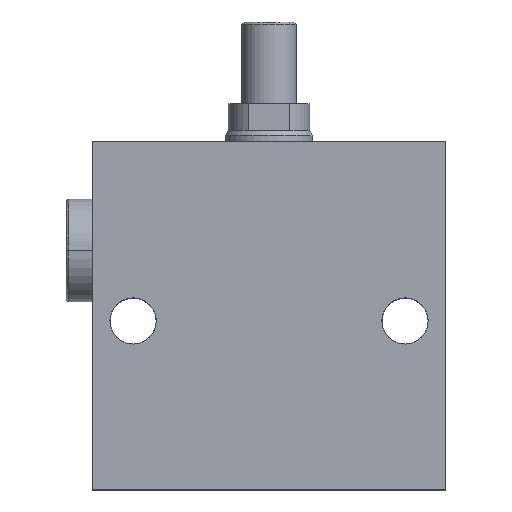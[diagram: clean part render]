
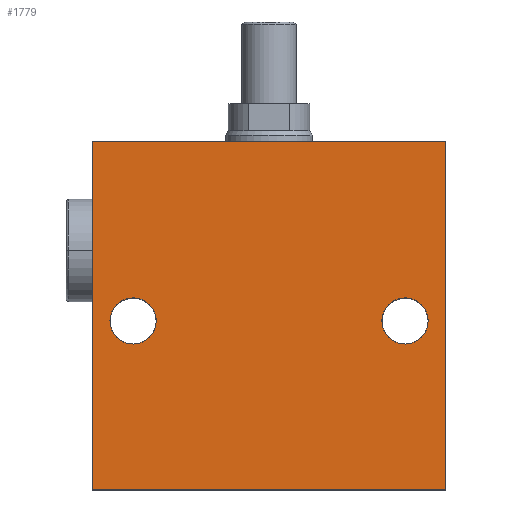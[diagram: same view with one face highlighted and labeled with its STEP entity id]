
A CAD part, top view. The second image highlights one B-rep face of the part: STEP entity #1779.
In plain terms, the highlighted planar face has unit normal (0, 0, 1).
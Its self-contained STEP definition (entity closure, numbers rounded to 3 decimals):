
#24 = CARTESIAN_POINT ( 'NONE',  ( 20.75, 31., 22.5 ) ) ;
#106 = DIRECTION ( 'NONE',  ( -1., 0., 0. ) ) ;
#120 = FACE_BOUND ( 'NONE', #3713, .T. ) ;
#157 = CARTESIAN_POINT ( 'NONE',  ( -20.75, 31., 22.5 ) ) ;
#181 = DIRECTION ( 'NONE',  ( 1., 0., 0. ) ) ;
#216 = CIRCLE ( 'NONE', #1874, 4.25 ) ;
#250 = CIRCLE ( 'NONE', #1029, 4.25 ) ;
#326 = FACE_BOUND ( 'NONE', #912, .T. ) ;
#420 = DIRECTION ( 'NONE',  ( 1., 0., 0. ) ) ;
#444 = VERTEX_POINT ( 'NONE', #3218 ) ;
#515 = VERTEX_POINT ( 'NONE', #1730 ) ;
#527 = EDGE_LOOP ( 'NONE', ( #2986, #921, #3039, #2005 ) ) ;
#555 = ORIENTED_EDGE ( 'NONE', *, *, #2517, .F. ) ;
#706 = LINE ( 'NONE', #2457, #813 ) ;
#813 = VECTOR ( 'NONE', #181, 1000. ) ;
#814 = DIRECTION ( 'NONE',  ( 1., 0., 0. ) ) ;
#827 = CARTESIAN_POINT ( 'NONE',  ( 29.25, 31., 22.5 ) ) ;
#859 = DIRECTION ( 'NONE',  ( 1., 0., 0. ) ) ;
#912 = EDGE_LOOP ( 'NONE', ( #1219, #1044 ) ) ;
#918 = DIRECTION ( 'NONE',  ( 1., 0., 0. ) ) ;
#921 = ORIENTED_EDGE ( 'NONE', *, *, #3080, .F. ) ;
#994 = LINE ( 'NONE', #3492, #1553 ) ;
#1012 = VERTEX_POINT ( 'NONE', #827 ) ;
#1029 = AXIS2_PLACEMENT_3D ( 'NONE', #4207, #1269, #918 ) ;
#1044 = ORIENTED_EDGE ( 'NONE', *, *, #1664, .F. ) ;
#1087 = CARTESIAN_POINT ( 'NONE',  ( -25., 31., 22.5 ) ) ;
#1166 = DIRECTION ( 'NONE',  ( 1., 0., 0. ) ) ;
#1219 = ORIENTED_EDGE ( 'NONE', *, *, #3119, .F. ) ;
#1268 = DIRECTION ( 'NONE',  ( 0., 0., 1. ) ) ;
#1269 = DIRECTION ( 'NONE',  ( 0., 0., 1. ) ) ;
#1316 = VERTEX_POINT ( 'NONE', #1697 ) ;
#1470 = CARTESIAN_POINT ( 'NONE',  ( 32.5, 44., 22.5 ) ) ;
#1553 = VECTOR ( 'NONE', #1166, 1000. ) ;
#1664 = EDGE_CURVE ( 'NONE', #2017, #3844, #2530, .T. ) ;
#1697 = CARTESIAN_POINT ( 'NONE',  ( -32.5, 0., 22.5 ) ) ;
#1730 = CARTESIAN_POINT ( 'NONE',  ( -32.5, 64., 22.5 ) ) ;
#1779 = ADVANCED_FACE ( 'NONE', ( #120, #326, #3195 ), #4052, .F. ) ;
#1789 = CARTESIAN_POINT ( 'NONE',  ( -32.5, 44., 22.5 ) ) ;
#1803 = EDGE_CURVE ( 'NONE', #515, #2639, #994, .T. ) ;
#1849 = CARTESIAN_POINT ( 'NONE',  ( -25., 31., 22.5 ) ) ;
#1867 = AXIS2_PLACEMENT_3D ( 'NONE', #1087, #3753, #814 ) ;
#1874 = AXIS2_PLACEMENT_3D ( 'NONE', #1849, #1268, #859 ) ;
#1934 = ORIENTED_EDGE ( 'NONE', *, *, #4170, .F. ) ;
#1954 = EDGE_CURVE ( 'NONE', #515, #1316, #2304, .T. ) ;
#2005 = ORIENTED_EDGE ( 'NONE', *, *, #1954, .T. ) ;
#2017 = VERTEX_POINT ( 'NONE', #2658 ) ;
#2285 = CARTESIAN_POINT ( 'NONE',  ( 32.5, 64., 22.5 ) ) ;
#2304 = LINE ( 'NONE', #2927, #2363 ) ;
#2336 = AXIS2_PLACEMENT_3D ( 'NONE', #2997, #3644, #420 ) ;
#2363 = VECTOR ( 'NONE', #3241, 1000. ) ;
#2401 = EDGE_CURVE ( 'NONE', #1316, #444, #706, .T. ) ;
#2457 = CARTESIAN_POINT ( 'NONE',  ( -32.5, 0., 22.5 ) ) ;
#2517 = EDGE_CURVE ( 'NONE', #2894, #1012, #250, .T. ) ;
#2530 = CIRCLE ( 'NONE', #1867, 4.25 ) ;
#2639 = VERTEX_POINT ( 'NONE', #2285 ) ;
#2658 = CARTESIAN_POINT ( 'NONE',  ( -29.25, 31., 22.5 ) ) ;
#2833 = DIRECTION ( 'NONE',  ( 0., -1., 0. ) ) ;
#2894 = VERTEX_POINT ( 'NONE', #24 ) ;
#2927 = CARTESIAN_POINT ( 'NONE',  ( -32.5, 44., 22.5 ) ) ;
#2986 = ORIENTED_EDGE ( 'NONE', *, *, #2401, .T. ) ;
#2997 = CARTESIAN_POINT ( 'NONE',  ( 25., 31., 22.5 ) ) ;
#3039 = ORIENTED_EDGE ( 'NONE', *, *, #1803, .F. ) ;
#3080 = EDGE_CURVE ( 'NONE', #2639, #444, #3494, .T. ) ;
#3119 = EDGE_CURVE ( 'NONE', #3844, #2017, #216, .T. ) ;
#3190 = AXIS2_PLACEMENT_3D ( 'NONE', #1789, #3416, #106 ) ;
#3195 = FACE_OUTER_BOUND ( 'NONE', #527, .T. ) ;
#3218 = CARTESIAN_POINT ( 'NONE',  ( 32.5, 0., 22.5 ) ) ;
#3237 = VECTOR ( 'NONE', #2833, 1000. ) ;
#3241 = DIRECTION ( 'NONE',  ( 0., -1., 0. ) ) ;
#3416 = DIRECTION ( 'NONE',  ( 0., 0., -1. ) ) ;
#3492 = CARTESIAN_POINT ( 'NONE',  ( -32.5, 64., 22.5 ) ) ;
#3494 = LINE ( 'NONE', #1470, #3237 ) ;
#3579 = CIRCLE ( 'NONE', #2336, 4.25 ) ;
#3644 = DIRECTION ( 'NONE',  ( 0., 0., 1. ) ) ;
#3713 = EDGE_LOOP ( 'NONE', ( #1934, #555 ) ) ;
#3753 = DIRECTION ( 'NONE',  ( 0., 0., 1. ) ) ;
#3844 = VERTEX_POINT ( 'NONE', #157 ) ;
#4052 = PLANE ( 'NONE',  #3190 ) ;
#4170 = EDGE_CURVE ( 'NONE', #1012, #2894, #3579, .T. ) ;
#4207 = CARTESIAN_POINT ( 'NONE',  ( 25., 31., 22.5 ) ) ;
